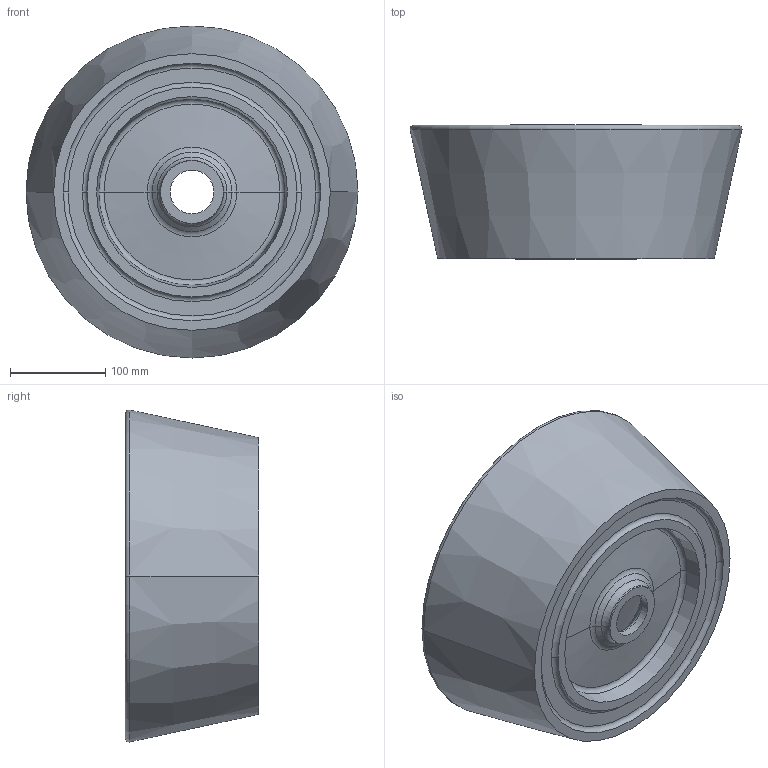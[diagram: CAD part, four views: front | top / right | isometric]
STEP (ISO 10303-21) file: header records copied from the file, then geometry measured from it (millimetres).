
FILE_DESCRIPTION (( 'STEP AP203' ), '1' );
FILE_NAME ('FORMA35 LAVABO.STEP', '2018-11-19T14:20:25', ( '' ), ( '' ), 'SwSTEP 2.0', 'SolidWorks 2019', '' );
FILE_SCHEMA (( 'CONFIG_CONTROL_DESIGN' ));
Length unit declared in the file: millimetre
Products named in the file (1): FORMA35 LAVABO
Bounding box: 348.09 x 140 x 348.09 mm (x, y, z)
Volume: 4254907.1 mm3; surface area: 370919.6 mm2
Topology: 1 solids, 1 shells, 43 faces, 86 edges, 48 vertices
Faces by surface type: torus 20, cone 16, plane 5, cylinder 2
Entity records: 1205 total; most frequent: DIRECTION 242, CARTESIAN_POINT 178, ORIENTED_EDGE 172, AXIS2_PLACEMENT_3D 112, EDGE_CURVE 86, CIRCLE 68, VERTEX_POINT 48, EDGE_LOOP 48
